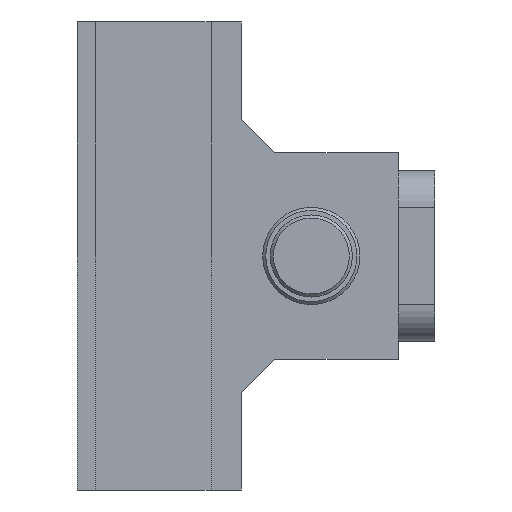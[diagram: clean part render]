
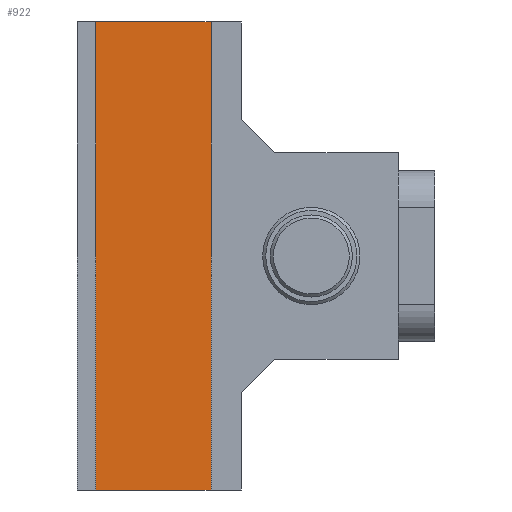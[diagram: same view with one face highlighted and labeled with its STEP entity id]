
A CAD part, left-side view. The second image highlights one B-rep face of the part: STEP entity #922.
In plain terms, the highlighted planar face has unit normal (-1, 0, 0).
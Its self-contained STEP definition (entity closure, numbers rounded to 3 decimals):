
#1 = AXIS2_PLACEMENT_3D ( 'NONE', #2365, #1175, #1930 ) ;
#14 = CARTESIAN_POINT ( 'NONE',  ( -16.5, 43., 38.5 ) ) ;
#69 = EDGE_LOOP ( 'NONE', ( #2370, #1198, #606, #1898 ) ) ;
#91 = CARTESIAN_POINT ( 'NONE',  ( -16.5, 43., 38.5 ) ) ;
#194 = CARTESIAN_POINT ( 'NONE',  ( -16.5, 62., -38.5 ) ) ;
#287 = VERTEX_POINT ( 'NONE', #2272 ) ;
#338 = LINE ( 'NONE', #1170, #1608 ) ;
#403 = DIRECTION ( 'NONE',  ( 0., 0., -1. ) ) ;
#417 = LINE ( 'NONE', #14, #1760 ) ;
#423 = VECTOR ( 'NONE', #1480, 1000. ) ;
#555 = PLANE ( 'NONE',  #1 ) ;
#606 = ORIENTED_EDGE ( 'NONE', *, *, #1359, .F. ) ;
#629 = CARTESIAN_POINT ( 'NONE',  ( -16.5, 62., 38.5 ) ) ;
#648 = EDGE_CURVE ( 'NONE', #680, #287, #338, .T. ) ;
#660 = CARTESIAN_POINT ( 'NONE',  ( -16.5, 62., 38.5 ) ) ;
#680 = VERTEX_POINT ( 'NONE', #629 ) ;
#682 = DIRECTION ( 'NONE',  ( 0., -1., 0. ) ) ;
#832 = VERTEX_POINT ( 'NONE', #1852 ) ;
#863 = EDGE_CURVE ( 'NONE', #680, #2397, #2294, .T. ) ;
#922 = ADVANCED_FACE ( 'NONE', ( #1955 ), #555, .F. ) ;
#1170 = CARTESIAN_POINT ( 'NONE',  ( -16.5, 62., 38.5 ) ) ;
#1175 = DIRECTION ( 'NONE',  ( 1., 0., 0. ) ) ;
#1198 = ORIENTED_EDGE ( 'NONE', *, *, #2142, .T. ) ;
#1211 = LINE ( 'NONE', #194, #2225 ) ;
#1359 = EDGE_CURVE ( 'NONE', #2397, #832, #417, .T. ) ;
#1480 = DIRECTION ( 'NONE',  ( 0., -1., 0. ) ) ;
#1608 = VECTOR ( 'NONE', #1753, 1000. ) ;
#1753 = DIRECTION ( 'NONE',  ( 0., 0., -1. ) ) ;
#1760 = VECTOR ( 'NONE', #403, 1000. ) ;
#1852 = CARTESIAN_POINT ( 'NONE',  ( -16.5, 43., -38.5 ) ) ;
#1898 = ORIENTED_EDGE ( 'NONE', *, *, #863, .F. ) ;
#1930 = DIRECTION ( 'NONE',  ( 0., 1., 0. ) ) ;
#1955 = FACE_OUTER_BOUND ( 'NONE', #69, .T. ) ;
#2142 = EDGE_CURVE ( 'NONE', #287, #832, #1211, .T. ) ;
#2225 = VECTOR ( 'NONE', #682, 1000. ) ;
#2272 = CARTESIAN_POINT ( 'NONE',  ( -16.5, 62., -38.5 ) ) ;
#2294 = LINE ( 'NONE', #660, #423 ) ;
#2365 = CARTESIAN_POINT ( 'NONE',  ( -16.5, 62., 38.5 ) ) ;
#2370 = ORIENTED_EDGE ( 'NONE', *, *, #648, .T. ) ;
#2397 = VERTEX_POINT ( 'NONE', #91 ) ;
